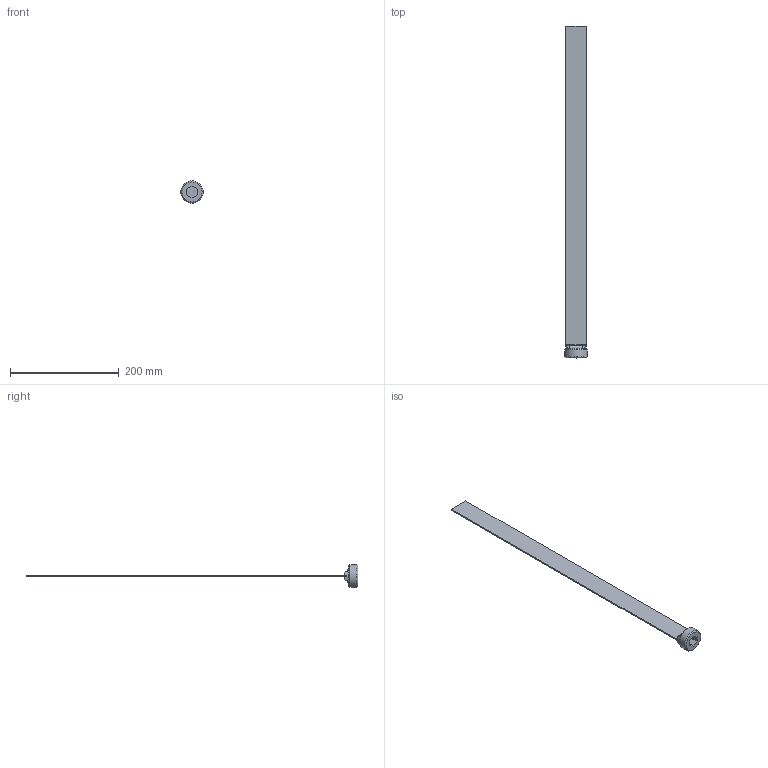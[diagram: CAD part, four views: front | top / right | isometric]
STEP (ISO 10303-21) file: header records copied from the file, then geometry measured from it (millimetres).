
FILE_DESCRIPTION(/* description */ (''),/* implementation_level */ '2;1');
FILE_NAME(/* name */ 'C:/Users/drich/Desktop/SB114X24 v1.step',/* time_stamp */ '2019-12-29T15:56:15-06:00',/* author */ (''),/* organization */ (''),/* preprocessor_version */ 'ST-DEVELOPER v18',/* originating_system */ 'Autodesk Translation Framework v8.12.0.6',/* authorisation */ '');
FILE_SCHEMA (('AUTOMOTIVE_DESIGN { 1 0 10303 214 3 1 1 }'));
Length unit declared in the file: inch
Products named in the file (1): SB114X24
Bounding box: 41.73 x 609.6 x 41.73 mm (x, y, z)
Volume: 74711 mm3; surface area: 52906.4 mm2
Topology: 1 solids, 1 shells, 40 faces, 106 edges, 69 vertices
Faces by surface type: plane 19, cylinder 8, torus 7, bspline 4, cone 2
Full cylindrical faces by diameter (mm): 36.474 x1, 41.73 x1
Entity records: 1611 total; most frequent: CARTESIAN_POINT 603, ORIENTED_EDGE 212, DIRECTION 188, EDGE_CURVE 106, VERTEX_POINT 69, AXIS2_PLACEMENT_3D 69, LINE 50, VECTOR 50
